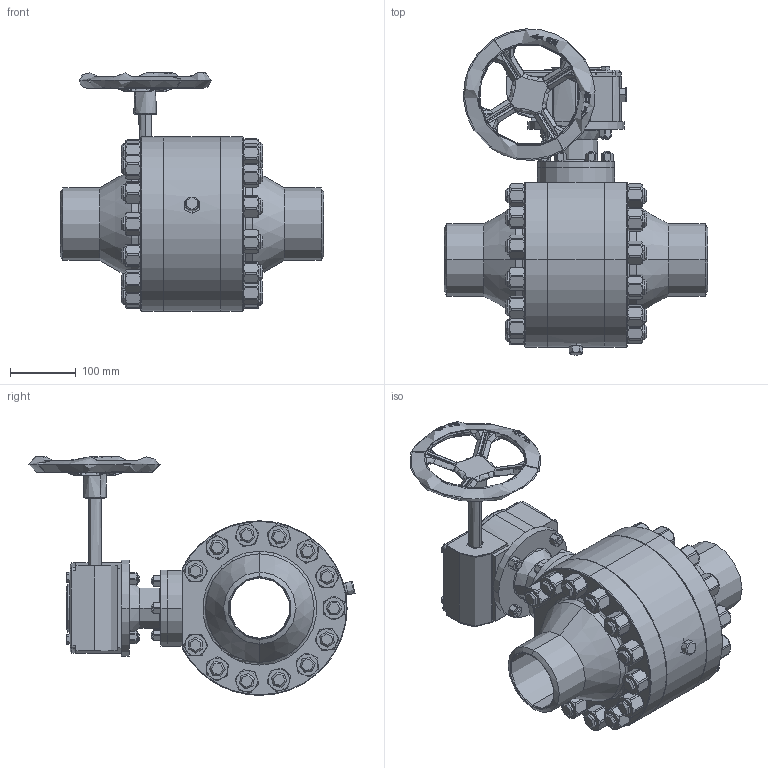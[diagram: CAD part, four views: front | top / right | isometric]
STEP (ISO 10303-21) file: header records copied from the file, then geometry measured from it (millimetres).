
FILE_DESCRIPTION(('STEP AP203'), '1');
FILE_NAME('ZARD 100.080.40.P.stp', '2013-12-09T05:58:23', ('UNSPECIFIED UNSPECIFIED'), ('UNSPECIFIED'), 'ASCON STEP Converter 1.3', 'Kompas 3D', '');
FILE_SCHEMA(('CONFIG_CONTROL_DESIGN','SUPPORT_RESOURCE_SCHEMA'));
Length unit declared in the file: millimetre
Products named in the file (1): 11
Bounding box: 400 x 494.94 x 362.5 mm (x, y, z)
Surface area: 1328031.7 mm2 (no closed solid volume)
Topology: 0 solids, 93 shells, 2557 faces, 6410 edges, 3979 vertices
Faces by surface type: cylinder 813, plane 728, cone 596, bspline 412, torus 8
Entity records: 181535 total; most frequent: CARTESIAN_POINT 125068, ORIENTED_EDGE 12213, DIRECTION 10232, EDGE_CURVE 6312, AXIS2_PLACEMENT_3D 4165, VERTEX_POINT 3948, EDGE_LOOP 2859, ADVANCED_FACE 2550
